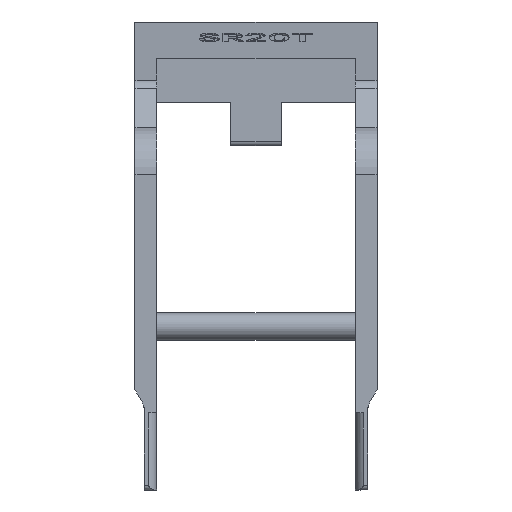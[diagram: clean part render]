
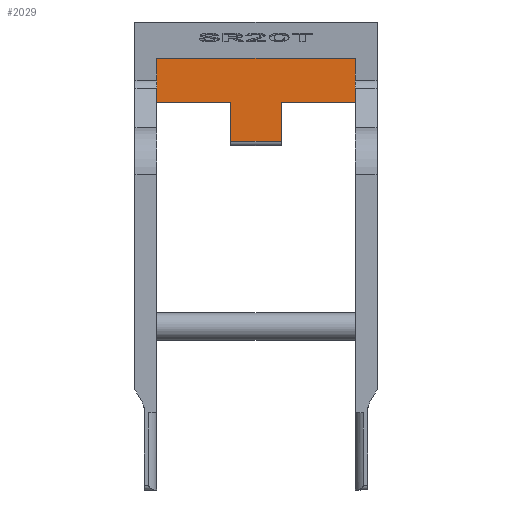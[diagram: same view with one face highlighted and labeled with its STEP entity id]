
A CAD part, front view. The second image highlights one B-rep face of the part: STEP entity #2029.
In plain terms, the highlighted planar face has unit normal (0, -1, 0).
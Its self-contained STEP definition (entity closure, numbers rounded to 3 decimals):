
#94 = VECTOR ( 'NONE', #4672, 1000. ) ;
#95 = ORIENTED_EDGE ( 'NONE', *, *, #4220, .T. ) ;
#327 = VERTEX_POINT ( 'NONE', #2513 ) ;
#340 = VECTOR ( 'NONE', #562, 1000. ) ;
#447 = DIRECTION ( 'NONE',  ( 1., 0., 0. ) ) ;
#557 = DIRECTION ( 'NONE',  ( 1., 0., 0. ) ) ;
#562 = DIRECTION ( 'NONE',  ( 0., 0., -1. ) ) ;
#570 = VECTOR ( 'NONE', #2404, 1000. ) ;
#584 = DIRECTION ( 'NONE',  ( 0., -1., 0. ) ) ;
#725 = CARTESIAN_POINT ( 'NONE',  ( 1.65, 27.905, 3.311 ) ) ;
#779 = CARTESIAN_POINT ( 'NONE',  ( -1.65, 27.905, 3.311 ) ) ;
#830 = VECTOR ( 'NONE', #447, 1000. ) ;
#846 = CARTESIAN_POINT ( 'NONE',  ( -6.45, 27.905, 5.811 ) ) ;
#918 = ORIENTED_EDGE ( 'NONE', *, *, #5466, .T. ) ;
#971 = CARTESIAN_POINT ( 'NONE',  ( -1.65, 27.905, 5.811 ) ) ;
#991 = VECTOR ( 'NONE', #5166, 1000. ) ;
#1007 = CARTESIAN_POINT ( 'NONE',  ( 1.65, 27.905, 3.011 ) ) ;
#1636 = VECTOR ( 'NONE', #6758, 1000. ) ;
#1947 = CARTESIAN_POINT ( 'NONE',  ( -6.45, 27.905, 8.697 ) ) ;
#2021 = CARTESIAN_POINT ( 'NONE',  ( 6.45, 27.905, 3.311 ) ) ;
#2029 = ADVANCED_FACE ( 'NONE', ( #5908 ), #3179, .T. ) ;
#2133 = CARTESIAN_POINT ( 'NONE',  ( 6.45, 27.905, 11.193 ) ) ;
#2210 = LINE ( 'NONE', #2021, #830 ) ;
#2278 = EDGE_CURVE ( 'NONE', #5426, #4525, #4752, .T. ) ;
#2279 = AXIS2_PLACEMENT_3D ( 'NONE', #2133, #584, #4241 ) ;
#2404 = DIRECTION ( 'NONE',  ( 1., 0., 0. ) ) ;
#2488 = ORIENTED_EDGE ( 'NONE', *, *, #3416, .T. ) ;
#2513 = CARTESIAN_POINT ( 'NONE',  ( 1.65, 27.905, 5.811 ) ) ;
#2546 = LINE ( 'NONE', #971, #991 ) ;
#2597 = CARTESIAN_POINT ( 'NONE',  ( -6.45, 27.905, 5.811 ) ) ;
#2654 = ORIENTED_EDGE ( 'NONE', *, *, #5449, .F. ) ;
#2660 = ORIENTED_EDGE ( 'NONE', *, *, #4195, .T. ) ;
#2665 = CARTESIAN_POINT ( 'NONE',  ( 6.45, 27.905, 5.811 ) ) ;
#2752 = CARTESIAN_POINT ( 'NONE',  ( 6.45, 27.905, 8.697 ) ) ;
#2801 = VERTEX_POINT ( 'NONE', #4309 ) ;
#3175 = CARTESIAN_POINT ( 'NONE',  ( 6.45, 27.905, 8.697 ) ) ;
#3179 = PLANE ( 'NONE',  #2279 ) ;
#3286 = LINE ( 'NONE', #6433, #340 ) ;
#3320 = VERTEX_POINT ( 'NONE', #1947 ) ;
#3368 = LINE ( 'NONE', #3175, #5809 ) ;
#3398 = EDGE_CURVE ( 'NONE', #327, #2801, #4268, .T. ) ;
#3416 = EDGE_CURVE ( 'NONE', #6569, #327, #5680, .T. ) ;
#3617 = CARTESIAN_POINT ( 'NONE',  ( 1.65, 27.905, 5.811 ) ) ;
#3712 = ORIENTED_EDGE ( 'NONE', *, *, #3398, .T. ) ;
#3796 = CARTESIAN_POINT ( 'NONE',  ( -1.65, 27.905, 5.811 ) ) ;
#4195 = EDGE_CURVE ( 'NONE', #4525, #6631, #2546, .T. ) ;
#4220 = EDGE_CURVE ( 'NONE', #6631, #6569, #2210, .T. ) ;
#4241 = DIRECTION ( 'NONE',  ( 0., 0., -1. ) ) ;
#4268 = LINE ( 'NONE', #3617, #1636 ) ;
#4309 = CARTESIAN_POINT ( 'NONE',  ( 6.45, 27.905, 5.811 ) ) ;
#4422 = LINE ( 'NONE', #2665, #4591 ) ;
#4525 = VERTEX_POINT ( 'NONE', #3796 ) ;
#4591 = VECTOR ( 'NONE', #6327, 1000. ) ;
#4672 = DIRECTION ( 'NONE',  ( 0., 0., 1. ) ) ;
#4752 = LINE ( 'NONE', #846, #570 ) ;
#5097 = EDGE_CURVE ( 'NONE', #3320, #5426, #3286, .T. ) ;
#5166 = DIRECTION ( 'NONE',  ( 0., 0., -1. ) ) ;
#5187 = EDGE_LOOP ( 'NONE', ( #2654, #6392, #6160, #2660, #95, #2488, #3712, #918 ) ) ;
#5426 = VERTEX_POINT ( 'NONE', #2597 ) ;
#5449 = EDGE_CURVE ( 'NONE', #3320, #5617, #3368, .T. ) ;
#5466 = EDGE_CURVE ( 'NONE', #2801, #5617, #4422, .T. ) ;
#5617 = VERTEX_POINT ( 'NONE', #2752 ) ;
#5680 = LINE ( 'NONE', #1007, #94 ) ;
#5809 = VECTOR ( 'NONE', #557, 1000. ) ;
#5908 = FACE_OUTER_BOUND ( 'NONE', #5187, .T. ) ;
#6160 = ORIENTED_EDGE ( 'NONE', *, *, #2278, .T. ) ;
#6327 = DIRECTION ( 'NONE',  ( 0., 0., 1. ) ) ;
#6392 = ORIENTED_EDGE ( 'NONE', *, *, #5097, .T. ) ;
#6433 = CARTESIAN_POINT ( 'NONE',  ( -6.45, 27.905, 11.193 ) ) ;
#6569 = VERTEX_POINT ( 'NONE', #725 ) ;
#6631 = VERTEX_POINT ( 'NONE', #779 ) ;
#6758 = DIRECTION ( 'NONE',  ( 1., 0., 0. ) ) ;
